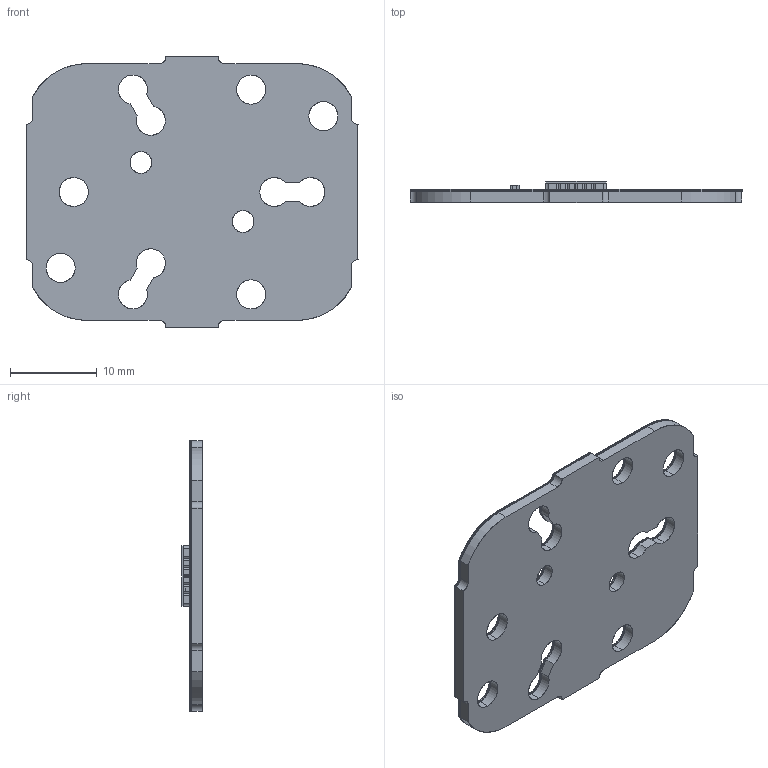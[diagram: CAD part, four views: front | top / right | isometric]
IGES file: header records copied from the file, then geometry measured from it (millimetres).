
Start section: SolidWorks IGES file using analytic representation for surfaces
Global section: file name: C:\P-Gold\Projects\MCPCBs\For_07x07_07die_LZ7\1900-0099-RBN\Apps(New)\LZ7-N4xx00-P3_RevB.IGS; native system: SolidWorks 2014; preprocessor: SolidWorks 2014; author: dadebiyi; date: 160606.120216; units: millimetre
Bounding box: 38.31 x 2.41 x 31.23 mm (x, y, z)
Surface area: 6664.3 mm2 (no closed solid volume)
Topology: 0 solids, 0 shells, 1860 faces, 17178 edges, 17178 vertices
Faces by surface type: bspline 1371, revolution 489
